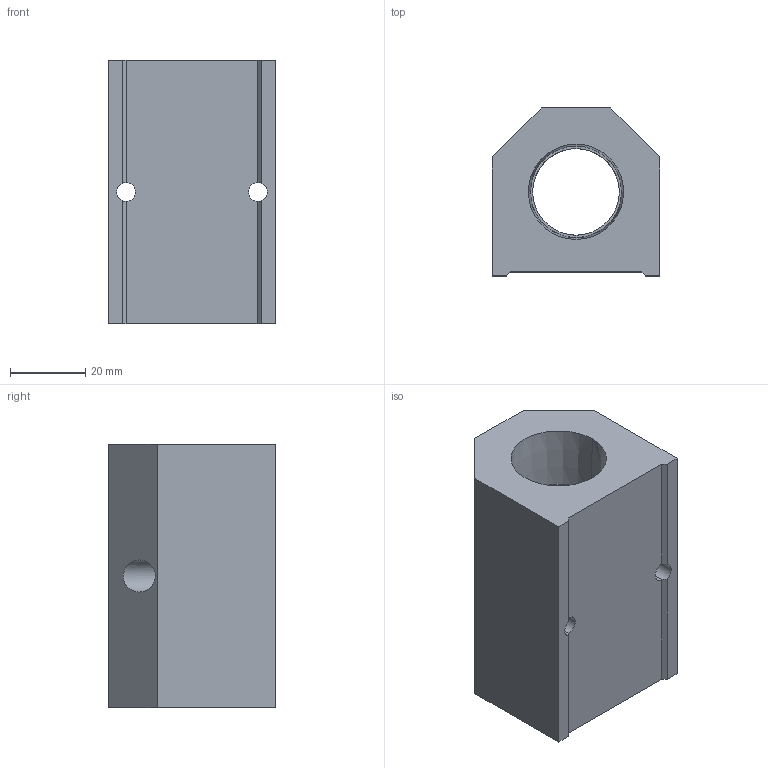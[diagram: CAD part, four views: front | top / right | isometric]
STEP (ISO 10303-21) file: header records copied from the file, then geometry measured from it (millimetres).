
FILE_DESCRIPTION (( 'STEP AP214' ), '1' );
FILE_NAME ('ALM2C-N4N12-70R.step', '2022-02-06T14:05:59', ( '' ), ( '' ), 'SwSTEP 2.0', 'SolidWorks 2020', '' );
FILE_SCHEMA (( 'AUTOMOTIVE_DESIGN' ));
Length unit declared in the file: millimetre
Products named in the file (1): ALM2C-N4N12-70R
Bounding box: 44.5 x 44.5 x 70 mm (x, y, z)
Volume: 88389.6 mm3; surface area: 20840.1 mm2
Topology: 1 solids, 1 shells, 251 faces, 663 edges, 438 vertices
Faces by surface type: plane 181, bspline 41, cylinder 15, cone 14
Entity records: 13192 total; most frequent: CARTESIAN_POINT 4934, ORIENTED_EDGE 1326, DIRECTION 1021, EDGE_CURVE 663, LINE 515, VECTOR 515, VERTEX_POINT 438, EDGE_LOOP 285
